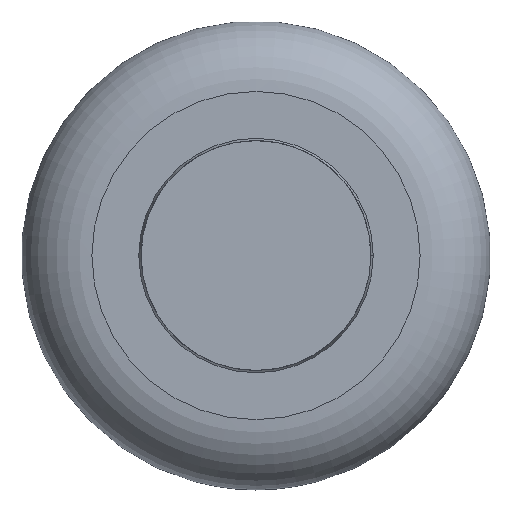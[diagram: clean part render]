
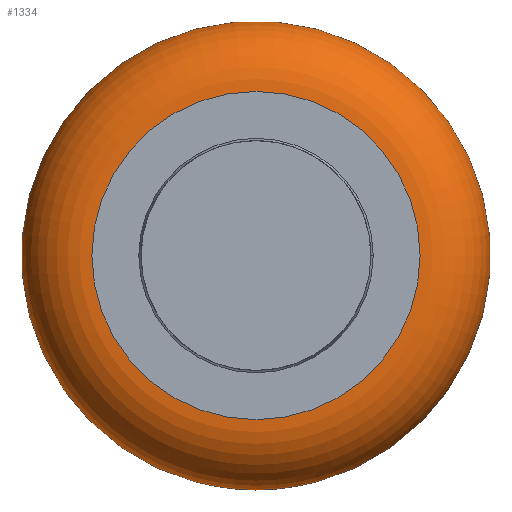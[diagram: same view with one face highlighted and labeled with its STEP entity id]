
A CAD part, front view. The second image highlights one B-rep face of the part: STEP entity #1334.
In plain terms, the highlighted toroidal (fillet/blend) face has major radius 17.5 mm and minor radius 7.5 mm.
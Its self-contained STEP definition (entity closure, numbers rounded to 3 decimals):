
#301=FACE_OUTER_BOUND('',#384,.T.);
#384=EDGE_LOOP('',(#1004,#1005,#1006,#1007,#1008,#1009,#1010,#1011));
#452=CIRCLE('',#1420,25.);
#453=CIRCLE('',#1421,25.);
#457=CIRCLE('',#1430,25.);
#458=CIRCLE('',#1432,25.);
#466=CIRCLE('',#1443,25.);
#480=CIRCLE('',#1470,7.5);
#481=CIRCLE('',#1471,17.5);
#540=VERTEX_POINT('',#1953);
#541=VERTEX_POINT('',#1955);
#542=VERTEX_POINT('',#1957);
#548=VERTEX_POINT('',#1981);
#549=VERTEX_POINT('',#1985);
#571=VERTEX_POINT('',#2062);
#677=EDGE_CURVE('',#541,#540,#452,.T.);
#678=EDGE_CURVE('',#542,#541,#453,.T.);
#692=EDGE_CURVE('',#540,#548,#457,.T.);
#693=EDGE_CURVE('',#549,#542,#458,.T.);
#706=EDGE_CURVE('',#548,#549,#466,.T.);
#732=EDGE_CURVE('',#541,#571,#480,.T.);
#733=EDGE_CURVE('',#571,#571,#481,.T.);
#1004=ORIENTED_EDGE('',*,*,#678,.T.);
#1005=ORIENTED_EDGE('',*,*,#732,.T.);
#1006=ORIENTED_EDGE('',*,*,#733,.T.);
#1007=ORIENTED_EDGE('',*,*,#732,.F.);
#1008=ORIENTED_EDGE('',*,*,#677,.T.);
#1009=ORIENTED_EDGE('',*,*,#692,.T.);
#1010=ORIENTED_EDGE('',*,*,#706,.T.);
#1011=ORIENTED_EDGE('',*,*,#693,.T.);
#1299=TOROIDAL_SURFACE('',#1469,17.5,7.5);
#1334=ADVANCED_FACE('',(#301),#1299,.T.);
#1420=AXIS2_PLACEMENT_3D('',#1956,#1595,#1596);
#1421=AXIS2_PLACEMENT_3D('',#1958,#1597,#1598);
#1430=AXIS2_PLACEMENT_3D('',#1983,#1625,#1626);
#1432=AXIS2_PLACEMENT_3D('',#1986,#1629,#1630);
#1443=AXIS2_PLACEMENT_3D('',#2010,#1656,#1657);
#1469=AXIS2_PLACEMENT_3D('',#2061,#1720,#1721);
#1470=AXIS2_PLACEMENT_3D('',#2063,#1722,#1723);
#1471=AXIS2_PLACEMENT_3D('',#2064,#1724,#1725);
#1595=DIRECTION('center_axis',(0.,-1.,0.));
#1596=DIRECTION('ref_axis',(1.,0.,0.));
#1597=DIRECTION('center_axis',(0.,-1.,0.));
#1598=DIRECTION('ref_axis',(1.,0.,0.));
#1625=DIRECTION('center_axis',(0.,-1.,0.));
#1626=DIRECTION('ref_axis',(1.,0.,0.));
#1629=DIRECTION('center_axis',(0.,-1.,0.));
#1630=DIRECTION('ref_axis',(1.,0.,0.));
#1656=DIRECTION('center_axis',(0.,-1.,0.));
#1657=DIRECTION('ref_axis',(1.,0.,0.));
#1720=DIRECTION('center_axis',(0.,1.,0.));
#1721=DIRECTION('ref_axis',(0.,0.,1.));
#1722=DIRECTION('center_axis',(-1.,0.,0.));
#1723=DIRECTION('ref_axis',(0.,0.,-1.));
#1724=DIRECTION('center_axis',(0.,1.,0.));
#1725=DIRECTION('ref_axis',(1.,0.,0.));
#1953=CARTESIAN_POINT('',(6.484,7.5,-24.144));
#1955=CARTESIAN_POINT('',(0.,7.5,-25.));
#1956=CARTESIAN_POINT('Origin',(0.,7.5,0.));
#1957=CARTESIAN_POINT('',(-6.484,7.5,-24.144));
#1958=CARTESIAN_POINT('Origin',(0.,7.5,0.));
#1981=CARTESIAN_POINT('',(6.484,7.5,24.144));
#1983=CARTESIAN_POINT('Origin',(0.,7.5,0.));
#1985=CARTESIAN_POINT('',(-6.484,7.5,24.144));
#1986=CARTESIAN_POINT('Origin',(0.,7.5,0.));
#2010=CARTESIAN_POINT('Origin',(0.,7.5,0.));
#2061=CARTESIAN_POINT('Origin',(0.,7.5,0.));
#2062=CARTESIAN_POINT('',(0.,0.,-17.5));
#2063=CARTESIAN_POINT('Origin',(0.,7.5,-17.5));
#2064=CARTESIAN_POINT('Origin',(0.,0.,0.));
